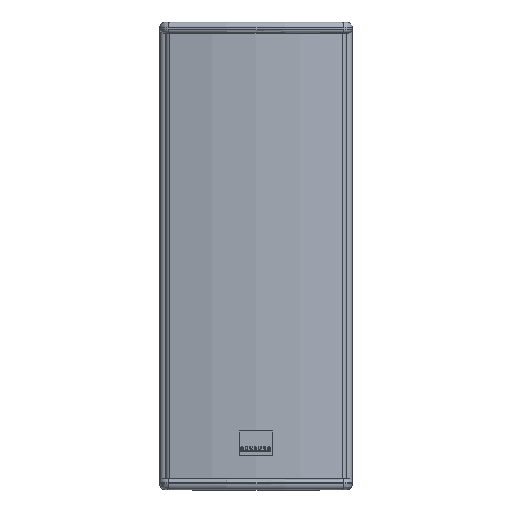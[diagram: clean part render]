
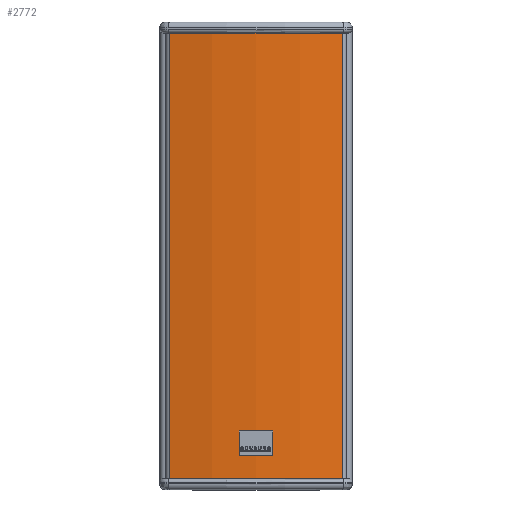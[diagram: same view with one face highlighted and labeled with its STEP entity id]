
A CAD part, top view. The second image highlights one B-rep face of the part: STEP entity #2772.
In plain terms, the highlighted cylindrical face has radius 400.537 mm (diameter 801.074 mm), a partial arc.
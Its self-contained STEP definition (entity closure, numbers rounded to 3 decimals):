
#2727 = EDGE_LOOP ( 'NONE', ( #2996, #3029, #3209, #3211 ) ) ;
#2752 = VERTEX_POINT ( 'NONE', #8849 ) ;
#2766 = EDGE_CURVE ( 'NONE', #2752, #2792, #8888, .T. ) ;
#2772 = ADVANCED_FACE ( 'NONE', ( #8871 ), #8870, .T. ) ;
#2792 = VERTEX_POINT ( 'NONE', #8903 ) ;
#2901 = VERTEX_POINT ( 'NONE', #9144 ) ;
#2981 = EDGE_CURVE ( 'NONE', #2792, #2901, #9228, .T. ) ;
#2996 = ORIENTED_EDGE ( 'NONE', *, *, #2981, .T. ) ;
#3029 = ORIENTED_EDGE ( 'NONE', *, *, #3116, .F. ) ;
#3116 = EDGE_CURVE ( 'NONE', #3118, #2901, #9446, .T. ) ;
#3118 = VERTEX_POINT ( 'NONE', #9438 ) ;
#3209 = ORIENTED_EDGE ( 'NONE', *, *, #3239, .F. ) ;
#3211 = ORIENTED_EDGE ( 'NONE', *, *, #2766, .T. ) ;
#3239 = EDGE_CURVE ( 'NONE', #2752, #3118, #9656, .T. ) ;
#8849 = CARTESIAN_POINT ( 'NONE',  ( 10.776, 17.115, 486. ) ) ;
#8869 = CARTESIAN_POINT ( 'NONE',  ( 105.12, 406.382, 0. ) ) ;
#8870 = CYLINDRICAL_SURFACE ( 'NONE', #8930, 400.537 ) ;
#8871 = FACE_OUTER_BOUND ( 'NONE', #2727, .T. ) ;
#8882 = DIRECTION ( 'NONE',  ( 0., 0., -1. ) ) ;
#8883 = VECTOR ( 'NONE', #8882, 1000. ) ;
#8884 = CARTESIAN_POINT ( 'NONE',  ( 10.776, 17.115, 0. ) ) ;
#8888 = LINE ( 'NONE', #8884, #8883 ) ;
#8903 = CARTESIAN_POINT ( 'NONE',  ( 10.776, 17.115, 0. ) ) ;
#8928 = DIRECTION ( 'NONE',  ( 1., 0., 0. ) ) ;
#8929 = DIRECTION ( 'NONE',  ( 0., 0., 1. ) ) ;
#8930 = AXIS2_PLACEMENT_3D ( 'NONE', #8869, #8929, #8928 ) ;
#9144 = CARTESIAN_POINT ( 'NONE',  ( 199.236, 17.06, 0. ) ) ;
#9224 = DIRECTION ( 'NONE',  ( 1., 0., 0. ) ) ;
#9225 = DIRECTION ( 'NONE',  ( 0., 0., 1. ) ) ;
#9226 = CARTESIAN_POINT ( 'NONE',  ( 105.12, 406.382, 0. ) ) ;
#9227 = AXIS2_PLACEMENT_3D ( 'NONE', #9226, #9225, #9224 ) ;
#9228 = CIRCLE ( 'NONE', #9227, 400.537 ) ;
#9438 = CARTESIAN_POINT ( 'NONE',  ( 199.236, 17.06, 486. ) ) ;
#9443 = DIRECTION ( 'NONE',  ( 0., 0., -1. ) ) ;
#9444 = VECTOR ( 'NONE', #9443, 1000. ) ;
#9445 = CARTESIAN_POINT ( 'NONE',  ( 199.236, 17.06, 0. ) ) ;
#9446 = LINE ( 'NONE', #9445, #9444 ) ;
#9652 = DIRECTION ( 'NONE',  ( 1., 0., 0. ) ) ;
#9653 = DIRECTION ( 'NONE',  ( 0., 0., 1. ) ) ;
#9654 = CARTESIAN_POINT ( 'NONE',  ( 105.12, 406.382, 486. ) ) ;
#9655 = AXIS2_PLACEMENT_3D ( 'NONE', #9654, #9653, #9652 ) ;
#9656 = CIRCLE ( 'NONE', #9655, 400.537 ) ;
